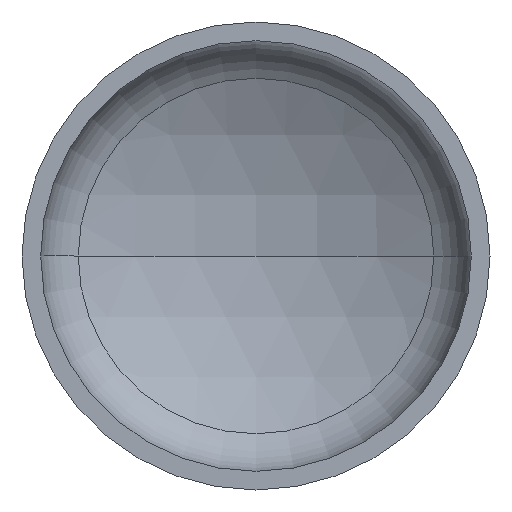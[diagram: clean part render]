
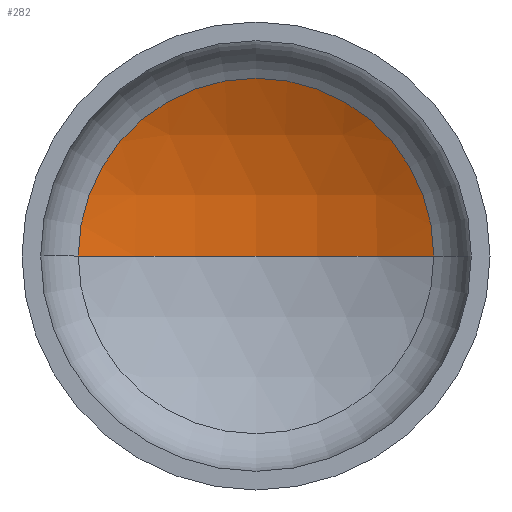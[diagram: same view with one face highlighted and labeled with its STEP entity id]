
A CAD part, front view. The second image highlights one B-rep face of the part: STEP entity #282.
In plain terms, the highlighted spherical face has radius 1520 mm.
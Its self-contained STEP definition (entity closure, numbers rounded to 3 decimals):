
#17 = AXIS2_PLACEMENT_3D ( 'NONE', #80, #352, #274 ) ;
#19 = AXIS2_PLACEMENT_3D ( 'NONE', #124, #127, #286 ) ;
#21 = EDGE_LOOP ( 'NONE', ( #391, #235, #172 ) ) ;
#26 = AXIS2_PLACEMENT_3D ( 'NONE', #112, #331, #160 ) ;
#47 = AXIS2_PLACEMENT_3D ( 'NONE', #206, #220, #205 ) ;
#80 = CARTESIAN_POINT ( 'NONE',  ( 0., -962.517, 0. ) ) ;
#112 = CARTESIAN_POINT ( 'NONE',  ( 0., 375.228, 0. ) ) ;
#124 = CARTESIAN_POINT ( 'NONE',  ( 0., -962.517, 0. ) ) ;
#127 = DIRECTION ( 'NONE',  ( 0., 0., -1. ) ) ;
#146 = CARTESIAN_POINT ( 'NONE',  ( 721.691, 375.228, 0. ) ) ;
#148 = SPHERICAL_SURFACE ( 'NONE', #47, 1520. ) ;
#160 = DIRECTION ( 'NONE',  ( 1., 0., 0. ) ) ;
#172 = ORIENTED_EDGE ( 'NONE', *, *, #347, .T. ) ;
#204 = CARTESIAN_POINT ( 'NONE',  ( -721.691, 375.228, 0. ) ) ;
#205 = DIRECTION ( 'NONE',  ( -1., 0., 0. ) ) ;
#206 = CARTESIAN_POINT ( 'NONE',  ( 0., -962.517, 0. ) ) ;
#212 = VERTEX_POINT ( 'NONE', #146 ) ;
#220 = DIRECTION ( 'NONE',  ( 0., 0., -1. ) ) ;
#226 = FACE_OUTER_BOUND ( 'NONE', #21, .T. ) ;
#235 = ORIENTED_EDGE ( 'NONE', *, *, #350, .T. ) ;
#265 = CIRCLE ( 'NONE', #17, 1520. ) ;
#274 = DIRECTION ( 'NONE',  ( 1., 0., 0. ) ) ;
#279 = CIRCLE ( 'NONE', #19, 1520. ) ;
#282 = ADVANCED_FACE ( 'NONE', ( #226 ), #148, .F. ) ;
#286 = DIRECTION ( 'NONE',  ( -1., 0., 0. ) ) ;
#304 = VERTEX_POINT ( 'NONE', #204 ) ;
#331 = DIRECTION ( 'NONE',  ( 0., -1., 0. ) ) ;
#347 = EDGE_CURVE ( 'NONE', #212, #304, #348, .T. ) ;
#348 = CIRCLE ( 'NONE', #26, 721.691 ) ;
#350 = EDGE_CURVE ( 'NONE', #360, #212, #279, .T. ) ;
#352 = DIRECTION ( 'NONE',  ( 0., 0., 1. ) ) ;
#356 = EDGE_CURVE ( 'NONE', #360, #304, #265, .T. ) ;
#357 = CARTESIAN_POINT ( 'NONE',  ( 0., 557.483, 0. ) ) ;
#360 = VERTEX_POINT ( 'NONE', #357 ) ;
#391 = ORIENTED_EDGE ( 'NONE', *, *, #356, .F. ) ;
